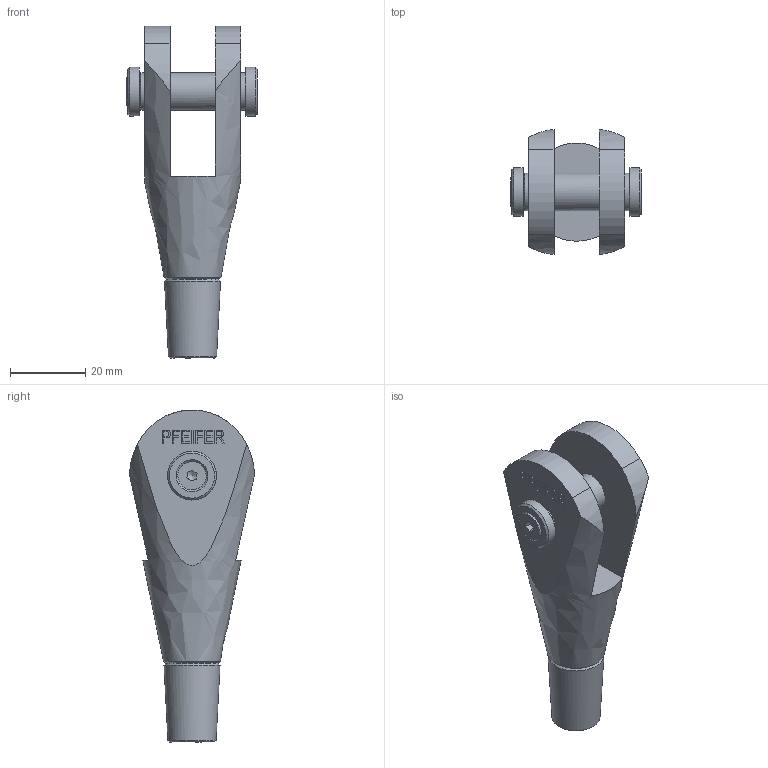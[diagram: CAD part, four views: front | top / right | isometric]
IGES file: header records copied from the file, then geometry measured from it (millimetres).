
Global section: file name: 520-010-GAK; native system: Autodesk Inventor 2016; preprocessor: unknown; author: Administrator; date: 20200625.074322; units: centimetre
Bounding box: 34.78 x 33.25 x 88.5 mm (x, y, z)
Volume: 26414.4 mm3; surface area: 10062.5 mm2
Topology: 1 solids, 2 shells, 185 faces, 487 edges, 325 vertices
Faces by surface type: bspline 185
